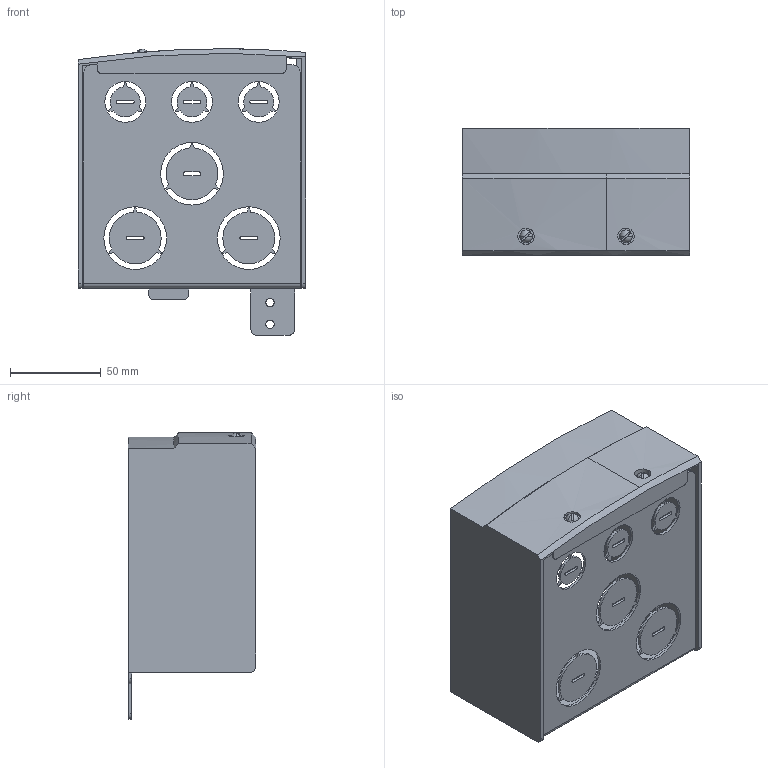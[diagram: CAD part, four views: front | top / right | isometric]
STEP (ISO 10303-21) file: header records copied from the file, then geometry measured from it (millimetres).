
FILE_DESCRIPTION (( 'STEP AP214' ), '1' );
FILE_NAME ('3D 沓麧錪 庉2-4.STEP', '2016-05-19T09:23:24', ( '' ), ( '' ), 'SwSTEP 2.0', 'SolidWorks 2014', '' );
FILE_SCHEMA (( 'AUTOMOTIVE_DESIGN' ));
Length unit declared in the file: millimetre
Products named in the file (4): 鎔艜 襞旂 17473_M4x10; ﾊﾎ2-4 湜跫; ﾊﾎ2-4 湜跫_1; 3D 沓麧錪 庉2-4
Assembly tree (4 placements, depth 2):
  3D 沓麧錪 庉2-4
    ﾊﾎ2-4 湜跫_1
    ﾊﾎ2-4 湜跫
    鎔艜 襞旂 17473_M4x10  x2
Bounding box: 125 x 70 x 157.71 mm (x, y, z)
Volume: 95528.8 mm3; surface area: 105940.3 mm2
Topology: 6 solids, 6 shells, 295 faces, 810 edges, 533 vertices
Faces by surface type: plane 156, cylinder 122, cone 9, torus 4, sphere 4
Entity records: 9561 total; most frequent: CARTESIAN_POINT 1852, DIRECTION 1589, ORIENTED_EDGE 1556, EDGE_CURVE 778, AXIS2_PLACEMENT_3D 540, VERTEX_POINT 513, VECTOR 509, LINE 509
